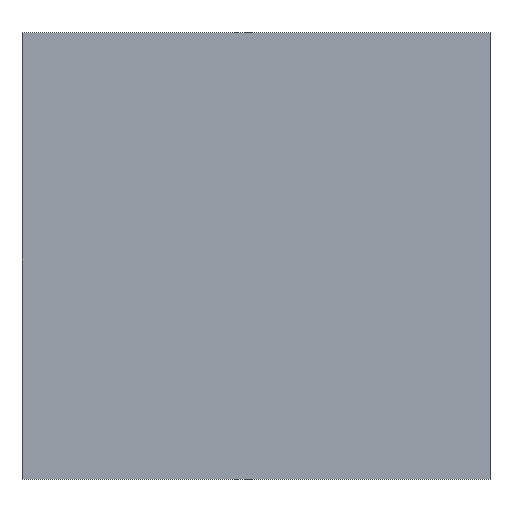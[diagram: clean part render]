
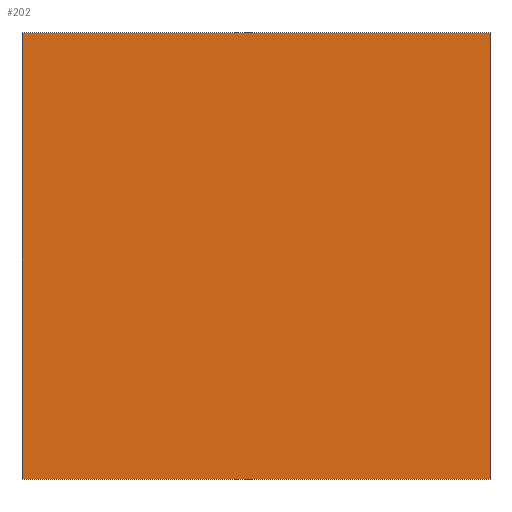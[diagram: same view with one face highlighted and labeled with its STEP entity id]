
A CAD part, top view. The second image highlights one B-rep face of the part: STEP entity #202.
In plain terms, the highlighted planar face has unit normal (0, 0, 1).
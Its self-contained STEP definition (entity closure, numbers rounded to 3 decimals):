
#13 = AXIS2_PLACEMENT_3D ( 'NONE', #95, #76, #77 ) ;
#17 = EDGE_CURVE ( 'NONE', #64, #59, #41, .T. ) ;
#18 = EDGE_CURVE ( 'NONE', #58, #60, #178, .T. ) ;
#22 = EDGE_CURVE ( 'NONE', #60, #64, #38, .T. ) ;
#24 = EDGE_CURVE ( 'NONE', #59, #58, #30, .T. ) ;
#30 = LINE ( 'NONE', #129, #35 ) ;
#35 = VECTOR ( 'NONE', #127, 1000. ) ;
#38 = LINE ( 'NONE', #134, #51 ) ;
#39 = VECTOR ( 'NONE', #140, 1000. ) ;
#40 = VECTOR ( 'NONE', #137, 1000. ) ;
#41 = LINE ( 'NONE', #145, #40 ) ;
#44 = FACE_OUTER_BOUND ( 'NONE', #155, .T. ) ;
#51 = VECTOR ( 'NONE', #135, 1000. ) ;
#58 = VERTEX_POINT ( 'NONE', #120 ) ;
#59 = VERTEX_POINT ( 'NONE', #131 ) ;
#60 = VERTEX_POINT ( 'NONE', #115 ) ;
#64 = VERTEX_POINT ( 'NONE', #98 ) ;
#76 = DIRECTION ( 'NONE',  ( 0., 0., -1. ) ) ;
#77 = DIRECTION ( 'NONE',  ( 0., 1., 0. ) ) ;
#95 = CARTESIAN_POINT ( 'NONE',  ( -251., 479., 6. ) ) ;
#98 = CARTESIAN_POINT ( 'NONE',  ( 251., 479., 6. ) ) ;
#99 = PLANE ( 'NONE',  #13 ) ;
#115 = CARTESIAN_POINT ( 'NONE',  ( 251., 0., 6. ) ) ;
#120 = CARTESIAN_POINT ( 'NONE',  ( -251., 0., 6. ) ) ;
#127 = DIRECTION ( 'NONE',  ( 0., -1., 0. ) ) ;
#129 = CARTESIAN_POINT ( 'NONE',  ( -251., 0., 6. ) ) ;
#131 = CARTESIAN_POINT ( 'NONE',  ( -251., 479., 6. ) ) ;
#134 = CARTESIAN_POINT ( 'NONE',  ( 251., 0., 6. ) ) ;
#135 = DIRECTION ( 'NONE',  ( 0., 1., 0. ) ) ;
#136 = CARTESIAN_POINT ( 'NONE',  ( -251., 0., 6. ) ) ;
#137 = DIRECTION ( 'NONE',  ( -1., 0., 0. ) ) ;
#140 = DIRECTION ( 'NONE',  ( 1., 0., 0. ) ) ;
#145 = CARTESIAN_POINT ( 'NONE',  ( -251., 479., 6. ) ) ;
#155 = EDGE_LOOP ( 'NONE', ( #162, #158, #157, #163 ) ) ;
#157 = ORIENTED_EDGE ( 'NONE', *, *, #22, .T. ) ;
#158 = ORIENTED_EDGE ( 'NONE', *, *, #18, .T. ) ;
#162 = ORIENTED_EDGE ( 'NONE', *, *, #24, .T. ) ;
#163 = ORIENTED_EDGE ( 'NONE', *, *, #17, .T. ) ;
#178 = LINE ( 'NONE', #136, #39 ) ;
#202 = ADVANCED_FACE ( 'NONE', ( #44 ), #99, .F. ) ;
